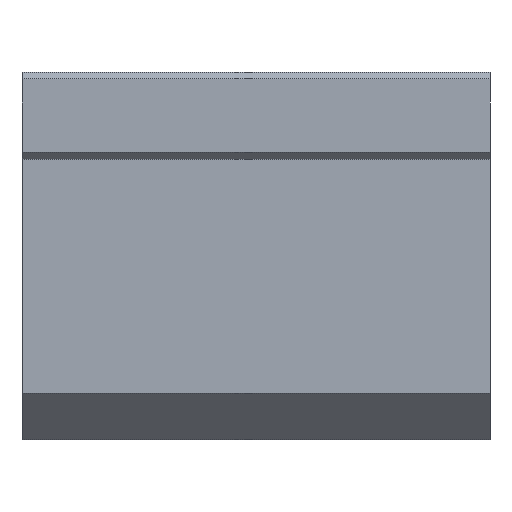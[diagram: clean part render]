
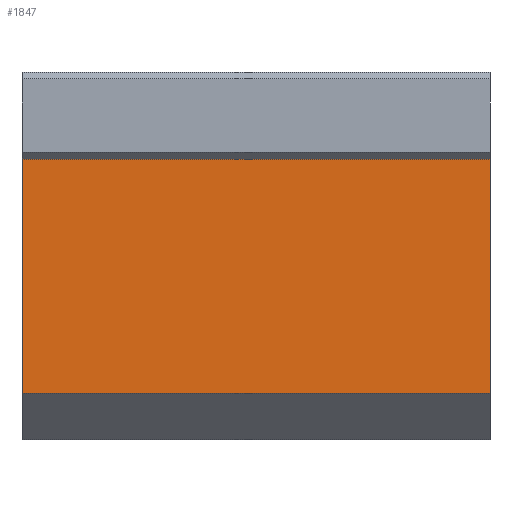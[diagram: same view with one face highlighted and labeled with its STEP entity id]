
A CAD part, front view. The second image highlights one B-rep face of the part: STEP entity #1847.
In plain terms, the highlighted planar face has unit normal (0, -1, 0).
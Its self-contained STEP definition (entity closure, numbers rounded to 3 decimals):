
#1618=CARTESIAN_POINT('',(0.0,-34.,-15.));
#1619=VERTEX_POINT('',#1618);
#1626=CARTESIAN_POINT('',(0.0,-34.,20.));
#1627=VERTEX_POINT('',#1626);
#1628=CARTESIAN_POINT('',(0.0,-34.,20.));
#1629=DIRECTION('',(0.0,0.0,-1.0));
#1630=VECTOR('',#1629,35.0);
#1631=LINE('',#1628,#1630);
#1632=EDGE_CURVE('',#1627,#1619,#1631,.T.);
#1799=CARTESIAN_POINT('',(70.0,-34.,20.));
#1800=VERTEX_POINT('',#1799);
#1801=CARTESIAN_POINT('',(0.0,-34.,20.));
#1802=DIRECTION('',(1.0,0.0,0.0));
#1803=VECTOR('',#1802,70.0);
#1804=LINE('',#1801,#1803);
#1805=EDGE_CURVE('',#1627,#1800,#1804,.T.);
#1824=CARTESIAN_POINT('',(0.0,-34.,-22.));
#1825=DIRECTION('',(0.0,-1.0,0.0));
#1826=DIRECTION('',(0.0,0.0,-1.0));
#1827=AXIS2_PLACEMENT_3D('',#1824,#1825,#1826);
#1828=PLANE('',#1827);
#1829=ORIENTED_EDGE('',*,*,#1805,.F.);
#1830=ORIENTED_EDGE('',*,*,#1632,.T.);
#1831=CARTESIAN_POINT('',(70.0,-34.,-15.));
#1832=VERTEX_POINT('',#1831);
#1833=CARTESIAN_POINT('',(70.0,-34.,-15.));
#1834=DIRECTION('',(-1.0,0.0,0.0));
#1835=VECTOR('',#1834,70.0);
#1836=LINE('',#1833,#1835);
#1837=EDGE_CURVE('',#1832,#1619,#1836,.T.);
#1838=ORIENTED_EDGE('',*,*,#1837,.F.);
#1839=CARTESIAN_POINT('',(70.0,-34.,-15.));
#1840=DIRECTION('',(0.0,0.0,1.0));
#1841=VECTOR('',#1840,35.0);
#1842=LINE('',#1839,#1841);
#1843=EDGE_CURVE('',#1832,#1800,#1842,.T.);
#1844=ORIENTED_EDGE('',*,*,#1843,.T.);
#1845=EDGE_LOOP('',(#1829,#1830,#1838,#1844));
#1846=FACE_OUTER_BOUND('',#1845,.T.);
#1847=ADVANCED_FACE('',(#1846),#1828,.T.);
